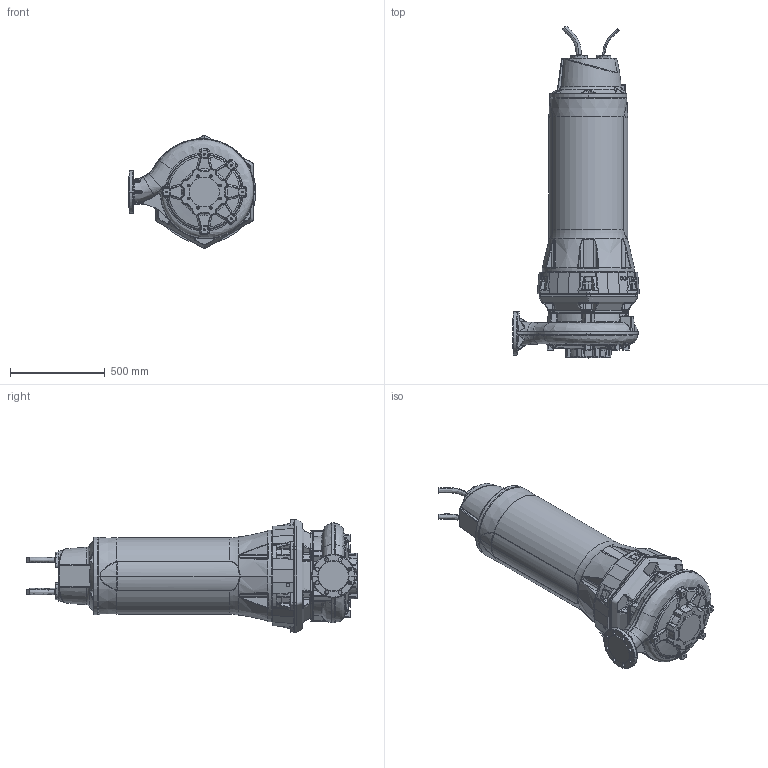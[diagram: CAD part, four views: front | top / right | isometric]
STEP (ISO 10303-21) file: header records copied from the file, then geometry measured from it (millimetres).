
FILE_DESCRIPTION (( 'STEP AP214' ), '1' );
FILE_NAME ('PE5_XFP100J-CH1_MOTOR OK_B_NG2.STEP', '2017-03-14T12:48:34', ( '' ), ( '' ), 'SwSTEP 2.0', 'SolidWorks 2017', '' );
FILE_SCHEMA (( 'AUTOMOTIVE_DESIGN' ));
Length unit declared in the file: millimetre
Products named in the file (1): PE5_XFP100J-CH1_MOTOR OK_B_NG2
Bounding box: 669.79 x 1753.58 x 595.59 mm (x, y, z)
Volume: 223719527.5 mm3; surface area: 2838081.6 mm2
Topology: 1 solids, 1 shells, 2157 faces, 5346 edges, 3166 vertices
Faces by surface type: bspline 825, cylinder 448, plane 377, torus 237, cone 204, sphere 66
Entity records: 160422 total; most frequent: CARTESIAN_POINT 92431, ORIENTED_EDGE 10572, DIRECTION 7684, EDGE_CURVE 5286, AXIS2_PLACEMENT_3D 3251, VERTEX_POINT 3166, EDGE_LOOP 2208, UNCERTAINTY_MEASURE_WITH_UNIT 2160
